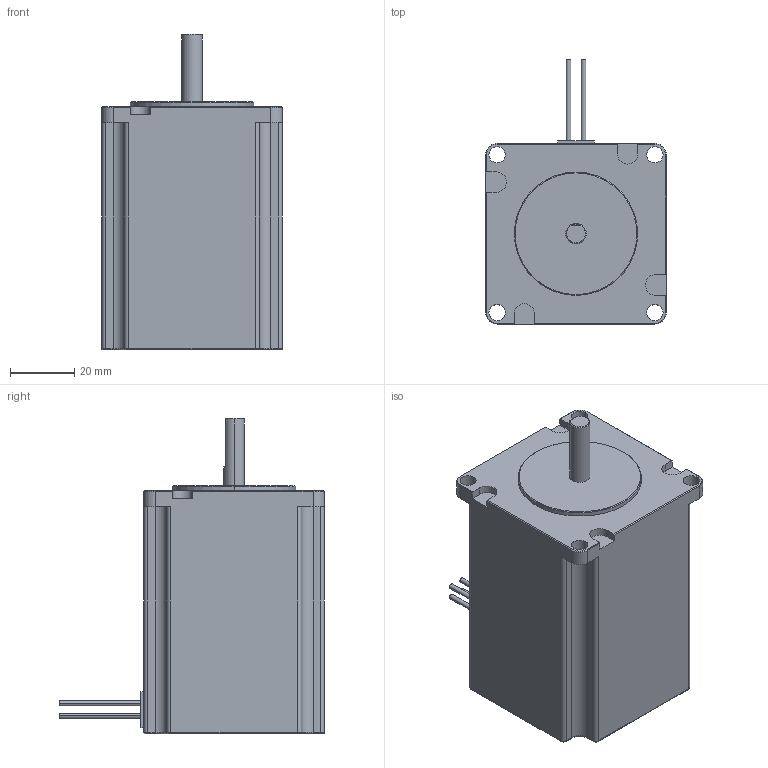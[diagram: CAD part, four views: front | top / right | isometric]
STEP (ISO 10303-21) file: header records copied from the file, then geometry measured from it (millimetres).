
FILE_DESCRIPTION((''),'2;1');
FILE_NAME('M-2231-30S','2017-12-21T15:40:00',('mulloa'),(''),'CREO PARAMETRIC BY PTC INC, 2016390','CREO PARAMETRIC BY PTC INC, 2016390','');
FILE_SCHEMA(('CONFIG_CONTROL_DESIGN'));
Length unit declared in the file: inch
Products named in the file (1): M-2231-30S
Bounding box: 56.39 x 82.68 x 98.55 mm (x, y, z)
Volume: 229264.1 mm3; surface area: 24110 mm2
Topology: 1 solids, 1 shells, 128 faces, 316 edges, 198 vertices
Faces by surface type: cylinder 54, plane 53, torus 14, cone 7
Entity records: 3849 total; most frequent: DIRECTION 703, CARTESIAN_POINT 650, ORIENTED_EDGE 632, EDGE_CURVE 316, AXIS2_PLACEMENT_3D 261, VERTEX_POINT 198, VECTOR 181, LINE 181
